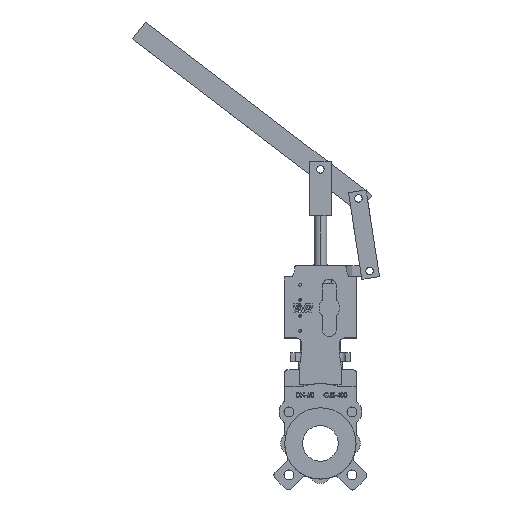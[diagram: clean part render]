
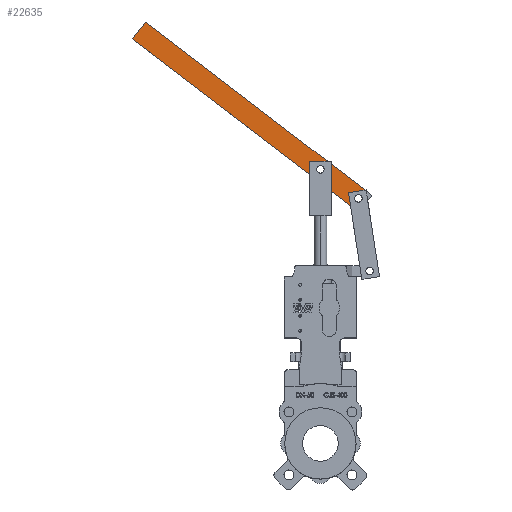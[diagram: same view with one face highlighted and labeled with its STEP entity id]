
A CAD part, top view. The second image highlights one B-rep face of the part: STEP entity #22635.
In plain terms, the highlighted planar face has unit normal (0, 0, 1).
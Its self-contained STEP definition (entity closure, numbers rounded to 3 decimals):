
#210 = VECTOR ( 'NONE', #7022, 1000. ) ;
#2036 = EDGE_CURVE ( 'NONE', #4092, #14116, #26033, .T. ) ;
#3010 = DIRECTION ( 'NONE',  ( -1., 0., 0. ) ) ;
#4092 = VERTEX_POINT ( 'NONE', #18844 ) ;
#4286 = VECTOR ( 'NONE', #17598, 1000. ) ;
#5608 = DIRECTION ( 'NONE',  ( 0.794, -0.608, 0. ) ) ;
#5815 = DIRECTION ( 'NONE',  ( 0., 0., 1. ) ) ;
#6549 = LINE ( 'NONE', #37321, #14645 ) ;
#6550 = ORIENTED_EDGE ( 'NONE', *, *, #29931, .F. ) ;
#6858 = CARTESIAN_POINT ( 'NONE',  ( 72.25, 348.098, 19. ) ) ;
#7022 = DIRECTION ( 'NONE',  ( 0.153, -0.988, 0. ) ) ;
#7973 = EDGE_CURVE ( 'NONE', #14116, #4092, #30079, .T. ) ;
#8386 = PLANE ( 'NONE',  #8729 ) ;
#8509 = CARTESIAN_POINT ( 'NONE',  ( 0., 0., 19. ) ) ;
#8729 = AXIS2_PLACEMENT_3D ( 'NONE', #8509, #8757, #20486 ) ;
#8757 = DIRECTION ( 'NONE',  ( 0., 0., 1. ) ) ;
#9472 = AXIS2_PLACEMENT_3D ( 'NONE', #20857, #14952, #17826 ) ;
#10055 = EDGE_LOOP ( 'NONE', ( #6550, #18628, #11861, #31972, #12441 ) ) ;
#10209 = EDGE_CURVE ( 'NONE', #29037, #11413, #29497, .T. ) ;
#11012 = CARTESIAN_POINT ( 'NONE',  ( 42.179, 333.333, 19. ) ) ;
#11121 = FACE_OUTER_BOUND ( 'NONE', #10055, .T. ) ;
#11413 = VERTEX_POINT ( 'NONE', #18869 ) ;
#11861 = ORIENTED_EDGE ( 'NONE', *, *, #21020, .T. ) ;
#12239 = ORIENTED_EDGE ( 'NONE', *, *, #2036, .F. ) ;
#12441 = ORIENTED_EDGE ( 'NONE', *, *, #30152, .T. ) ;
#13136 = VERTEX_POINT ( 'NONE', #15959 ) ;
#13245 = VECTOR ( 'NONE', #29609, 1000. ) ;
#14116 = VERTEX_POINT ( 'NONE', #26110 ) ;
#14645 = VECTOR ( 'NONE', #5608, 1000. ) ;
#14675 = CARTESIAN_POINT ( 'NONE',  ( 39.322, 351.747, 19. ) ) ;
#14705 = CARTESIAN_POINT ( 'NONE',  ( -245.407, 591.189, 19. ) ) ;
#14789 = FACE_BOUND ( 'NONE', #35573, .T. ) ;
#14952 = DIRECTION ( 'NONE',  ( 0., 0., 1. ) ) ;
#15423 = CARTESIAN_POINT ( 'NONE',  ( 64.027, 355.58, 19. ) ) ;
#15609 = CARTESIAN_POINT ( 'NONE',  ( 39.322, 351.747, 19. ) ) ;
#15959 = CARTESIAN_POINT ( 'NONE',  ( 62.734, 355.38, 19. ) ) ;
#17522 = VECTOR ( 'NONE', #32510, 1000. ) ;
#17598 = DIRECTION ( 'NONE',  ( -0.608, -0.794, 0. ) ) ;
#17826 = DIRECTION ( 'NONE',  ( -1., 0., 0. ) ) ;
#18628 = ORIENTED_EDGE ( 'NONE', *, *, #35638, .F. ) ;
#18844 = CARTESIAN_POINT ( 'NONE',  ( -5.25, 384.5, 19. ) ) ;
#18869 = CARTESIAN_POINT ( 'NONE',  ( -263.639, 567.365, 19. ) ) ;
#19065 = CARTESIAN_POINT ( 'NONE',  ( -245.407, 591.189, 19. ) ) ;
#20486 = DIRECTION ( 'NONE',  ( 1., 0., 0. ) ) ;
#20857 = CARTESIAN_POINT ( 'NONE',  ( 0., 384.5, 19. ) ) ;
#20918 = VERTEX_POINT ( 'NONE', #14675 ) ;
#20924 = LINE ( 'NONE', #6858, #13245 ) ;
#21020 = EDGE_CURVE ( 'NONE', #13136, #29037, #20924, .T. ) ;
#22635 = ADVANCED_FACE ( 'NONE', ( #11121, #14789 ), #8386, .T. ) ;
#22752 = LINE ( 'NONE', #15609, #210 ) ;
#23067 = CARTESIAN_POINT ( 'NONE',  ( 0., 384.5, 19. ) ) ;
#25736 = AXIS2_PLACEMENT_3D ( 'NONE', #23067, #5815, #3010 ) ;
#26033 = CIRCLE ( 'NONE', #25736, 5.25 ) ;
#26110 = CARTESIAN_POINT ( 'NONE',  ( 5.25, 384.5, 19. ) ) ;
#29037 = VERTEX_POINT ( 'NONE', #19065 ) ;
#29369 = ORIENTED_EDGE ( 'NONE', *, *, #7973, .F. ) ;
#29497 = LINE ( 'NONE', #14705, #4286 ) ;
#29609 = DIRECTION ( 'NONE',  ( -0.794, 0.608, 0. ) ) ;
#29931 = EDGE_CURVE ( 'NONE', #20918, #32565, #22752, .T. ) ;
#30079 = CIRCLE ( 'NONE', #9472, 5.25 ) ;
#30152 = EDGE_CURVE ( 'NONE', #11413, #32565, #6549, .T. ) ;
#31972 = ORIENTED_EDGE ( 'NONE', *, *, #10209, .T. ) ;
#32510 = DIRECTION ( 'NONE',  ( -0.988, -0.153, 0. ) ) ;
#32565 = VERTEX_POINT ( 'NONE', #11012 ) ;
#33728 = LINE ( 'NONE', #15423, #17522 ) ;
#35573 = EDGE_LOOP ( 'NONE', ( #12239, #29369 ) ) ;
#35638 = EDGE_CURVE ( 'NONE', #13136, #20918, #33728, .T. ) ;
#37321 = CARTESIAN_POINT ( 'NONE',  ( -263.639, 567.365, 19. ) ) ;
